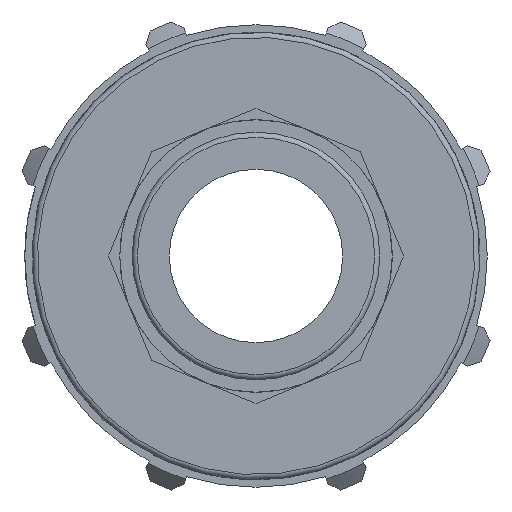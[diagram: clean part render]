
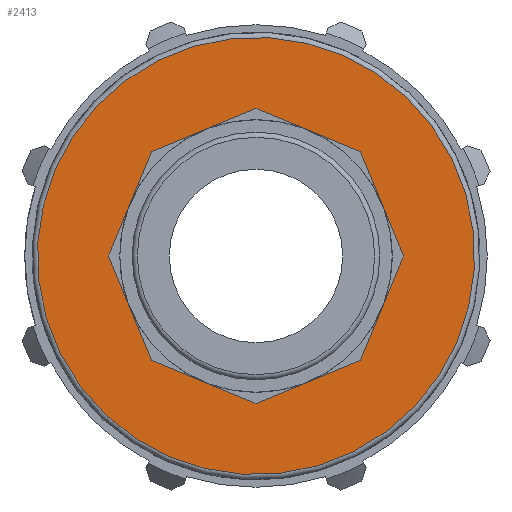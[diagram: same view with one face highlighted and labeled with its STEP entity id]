
A CAD part, left-side view. The second image highlights one B-rep face of the part: STEP entity #2413.
In plain terms, the highlighted planar face has unit normal (-1, 0, 0).
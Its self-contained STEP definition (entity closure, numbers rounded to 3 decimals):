
#486=PLANE('',#2597);
#555=FACE_BOUND('',#761,.T.);
#612=FACE_OUTER_BOUND('',#760,.T.);
#760=EDGE_LOOP('',(#1717));
#761=EDGE_LOOP('',(#1718));
#920=CIRCLE('',#2596,42.2);
#921=CIRCLE('',#2598,26.292);
#1071=VERTEX_POINT('',#3887);
#1072=VERTEX_POINT('',#3890);
#1334=EDGE_CURVE('',#1071,#1071,#920,.T.);
#1335=EDGE_CURVE('',#1072,#1072,#921,.T.);
#1717=ORIENTED_EDGE('',*,*,#1334,.F.);
#1718=ORIENTED_EDGE('',*,*,#1335,.T.);
#2413=ADVANCED_FACE('',(#612,#555),#486,.T.);
#2596=AXIS2_PLACEMENT_3D('',#3888,#2979,#2980);
#2597=AXIS2_PLACEMENT_3D('',#3889,#2981,#2982);
#2598=AXIS2_PLACEMENT_3D('',#3891,#2983,#2984);
#2979=DIRECTION('center_axis',(1.,0.,0.));
#2980=DIRECTION('ref_axis',(0.,-0.552,0.834));
#2981=DIRECTION('center_axis',(-1.,0.,0.));
#2982=DIRECTION('ref_axis',(0.,0.,1.));
#2983=DIRECTION('center_axis',(1.,0.,0.));
#2984=DIRECTION('ref_axis',(0.,0.,-1.));
#3887=CARTESIAN_POINT('',(57.333,23.283,-35.196));
#3888=CARTESIAN_POINT('Origin',(57.333,0.,0.));
#3889=CARTESIAN_POINT('Origin',(57.333,43.2,0.));
#3890=CARTESIAN_POINT('',(57.333,26.292,0.));
#3891=CARTESIAN_POINT('Origin',(57.333,0.,0.));
